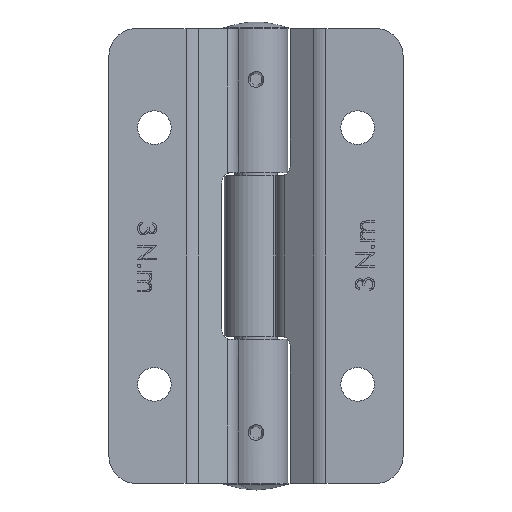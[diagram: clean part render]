
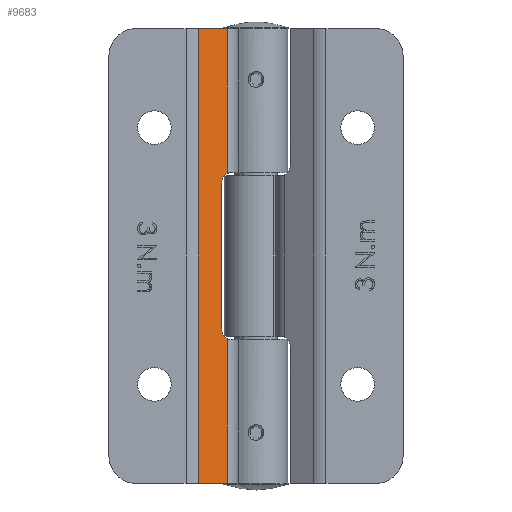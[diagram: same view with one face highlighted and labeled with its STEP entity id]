
A CAD part, front view. The second image highlights one B-rep face of the part: STEP entity #9683.
In plain terms, the highlighted planar face has unit normal (0.574, -0.819, 0) as drawn and (-0.574, -0.819, 0) by its records, which use the part's own axes.
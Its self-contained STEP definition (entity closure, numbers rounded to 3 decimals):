
#30 = CARTESIAN_POINT ( 'NONE',  ( 4.751, -4.547, 13.6 ) ) ;
#101 = ORIENTED_EDGE ( 'NONE', *, *, #2449, .T. ) ;
#135 = VECTOR ( 'NONE', #5002, 1000. ) ;
#214 = CARTESIAN_POINT ( 'NONE',  ( 10.791, -8.777, 42.5 ) ) ;
#238 = VECTOR ( 'NONE', #5149, 1000. ) ;
#484 = AXIS2_PLACEMENT_3D ( 'NONE', #3712, #9203, #4497 ) ;
#492 = CARTESIAN_POINT ( 'NONE',  ( 5.413, -5.011, -15.429 ) ) ;
#807 = DIRECTION ( 'NONE',  ( -0.819, 0.574, 0. ) ) ;
#951 = EDGE_CURVE ( 'NONE', #1737, #7826, #7407, .T. ) ;
#979 = DIRECTION ( 'NONE',  ( -0.819, 0.574, 0. ) ) ;
#990 = CARTESIAN_POINT ( 'NONE',  ( 10.791, -8.777, -42.5 ) ) ;
#1162 = ORIENTED_EDGE ( 'NONE', *, *, #7119, .T. ) ;
#1223 = CARTESIAN_POINT ( 'NONE',  ( 10.791, -8.777, 42.5 ) ) ;
#1554 = DIRECTION ( 'NONE',  ( 0., 0., -1. ) ) ;
#1727 = PLANE ( 'NONE',  #7605 ) ;
#1737 = VERTEX_POINT ( 'NONE', #8703 ) ;
#1915 = LINE ( 'NONE', #7674, #5847 ) ;
#2043 = AXIS2_PLACEMENT_3D ( 'NONE', #30, #5509, #807 ) ;
#2135 = VERTEX_POINT ( 'NONE', #2358 ) ;
#2266 = VERTEX_POINT ( 'NONE', #8015 ) ;
#2358 = CARTESIAN_POINT ( 'NONE',  ( 5.413, -5.011, 15.429 ) ) ;
#2449 = EDGE_CURVE ( 'NONE', #2630, #8388, #7853, .T. ) ;
#2514 = EDGE_CURVE ( 'NONE', #2135, #9352, #5536, .T. ) ;
#2630 = VERTEX_POINT ( 'NONE', #5854 ) ;
#2860 = LINE ( 'NONE', #7056, #6802 ) ;
#3130 = EDGE_LOOP ( 'NONE', ( #1162, #9631, #6533, #101, #6728, #9235, #9505, #6045 ) ) ;
#3275 = CARTESIAN_POINT ( 'NONE',  ( 10.791, -8.777, -42.5 ) ) ;
#3712 = CARTESIAN_POINT ( 'NONE',  ( 4.751, -4.547, -13.6 ) ) ;
#3745 = EDGE_CURVE ( 'NONE', #8388, #1737, #8226, .T. ) ;
#3997 = FACE_OUTER_BOUND ( 'NONE', #3130, .T. ) ;
#4497 = DIRECTION ( 'NONE',  ( -0.819, 0.574, 0. ) ) ;
#4532 = DIRECTION ( 'NONE',  ( 0.819, -0.574, 0. ) ) ;
#4619 = CARTESIAN_POINT ( 'NONE',  ( 5.413, -5.011, 42.5 ) ) ;
#4737 = EDGE_CURVE ( 'NONE', #7629, #2266, #1915, .T. ) ;
#5002 = DIRECTION ( 'NONE',  ( 0., 0., -1. ) ) ;
#5149 = DIRECTION ( 'NONE',  ( 0., 0., -1. ) ) ;
#5309 = VECTOR ( 'NONE', #7237, 1000. ) ;
#5509 = DIRECTION ( 'NONE',  ( 0.574, 0.819, 0. ) ) ;
#5536 = CIRCLE ( 'NONE', #2043, 2. ) ;
#5687 = DIRECTION ( 'NONE',  ( 0.574, 0.819, 0. ) ) ;
#5847 = VECTOR ( 'NONE', #4532, 1000. ) ;
#5854 = CARTESIAN_POINT ( 'NONE',  ( 6.389, -5.695, -13.6 ) ) ;
#6045 = ORIENTED_EDGE ( 'NONE', *, *, #4737, .F. ) ;
#6421 = VECTOR ( 'NONE', #9254, 1000. ) ;
#6533 = ORIENTED_EDGE ( 'NONE', *, *, #7582, .T. ) ;
#6728 = ORIENTED_EDGE ( 'NONE', *, *, #3745, .T. ) ;
#6802 = VECTOR ( 'NONE', #1554, 1000. ) ;
#7056 = CARTESIAN_POINT ( 'NONE',  ( 5.413, -5.011, 42.5 ) ) ;
#7119 = EDGE_CURVE ( 'NONE', #7629, #2135, #2860, .T. ) ;
#7237 = DIRECTION ( 'NONE',  ( 0.819, -0.574, 0. ) ) ;
#7407 = LINE ( 'NONE', #3275, #5309 ) ;
#7582 = EDGE_CURVE ( 'NONE', #9352, #2630, #8262, .T. ) ;
#7605 = AXIS2_PLACEMENT_3D ( 'NONE', #214, #5687, #979 ) ;
#7629 = VERTEX_POINT ( 'NONE', #4619 ) ;
#7650 = CARTESIAN_POINT ( 'NONE',  ( 6.389, -5.695, 42.5 ) ) ;
#7674 = CARTESIAN_POINT ( 'NONE',  ( 10.791, -8.777, 42.5 ) ) ;
#7826 = VERTEX_POINT ( 'NONE', #990 ) ;
#7853 = CIRCLE ( 'NONE', #484, 2. ) ;
#8015 = CARTESIAN_POINT ( 'NONE',  ( 10.791, -8.777, 42.5 ) ) ;
#8226 = LINE ( 'NONE', #8892, #135 ) ;
#8262 = LINE ( 'NONE', #7650, #6421 ) ;
#8338 = CARTESIAN_POINT ( 'NONE',  ( 6.389, -5.695, 13.6 ) ) ;
#8388 = VERTEX_POINT ( 'NONE', #492 ) ;
#8559 = LINE ( 'NONE', #1223, #238 ) ;
#8703 = CARTESIAN_POINT ( 'NONE',  ( 5.413, -5.011, -42.5 ) ) ;
#8892 = CARTESIAN_POINT ( 'NONE',  ( 5.413, -5.011, 42.5 ) ) ;
#9203 = DIRECTION ( 'NONE',  ( 0.574, 0.819, 0. ) ) ;
#9235 = ORIENTED_EDGE ( 'NONE', *, *, #951, .T. ) ;
#9254 = DIRECTION ( 'NONE',  ( 0., 0., -1. ) ) ;
#9324 = EDGE_CURVE ( 'NONE', #2266, #7826, #8559, .T. ) ;
#9352 = VERTEX_POINT ( 'NONE', #8338 ) ;
#9505 = ORIENTED_EDGE ( 'NONE', *, *, #9324, .F. ) ;
#9631 = ORIENTED_EDGE ( 'NONE', *, *, #2514, .T. ) ;
#9683 = ADVANCED_FACE ( 'NONE', ( #3997 ), #1727, .F. ) ;
